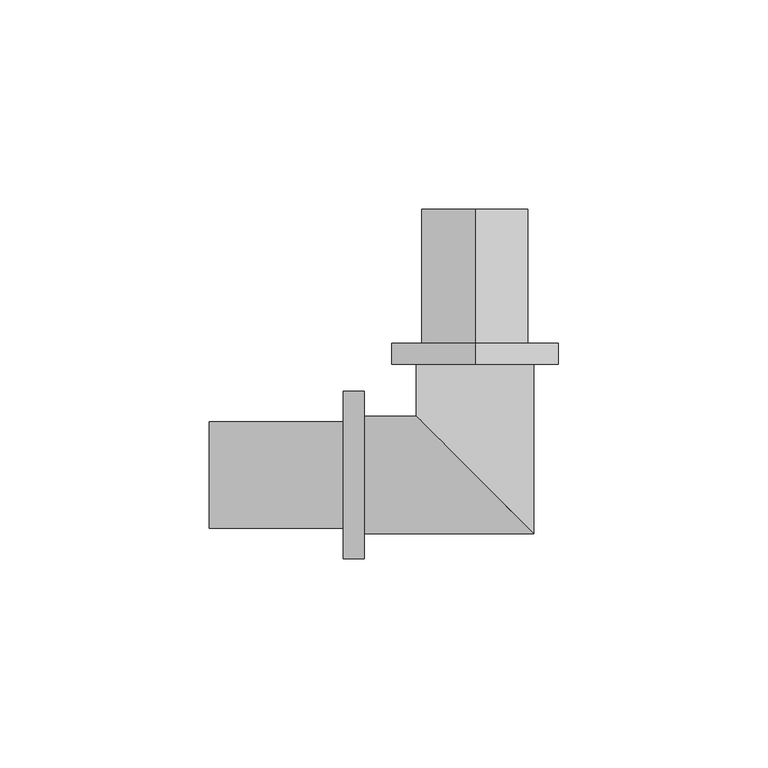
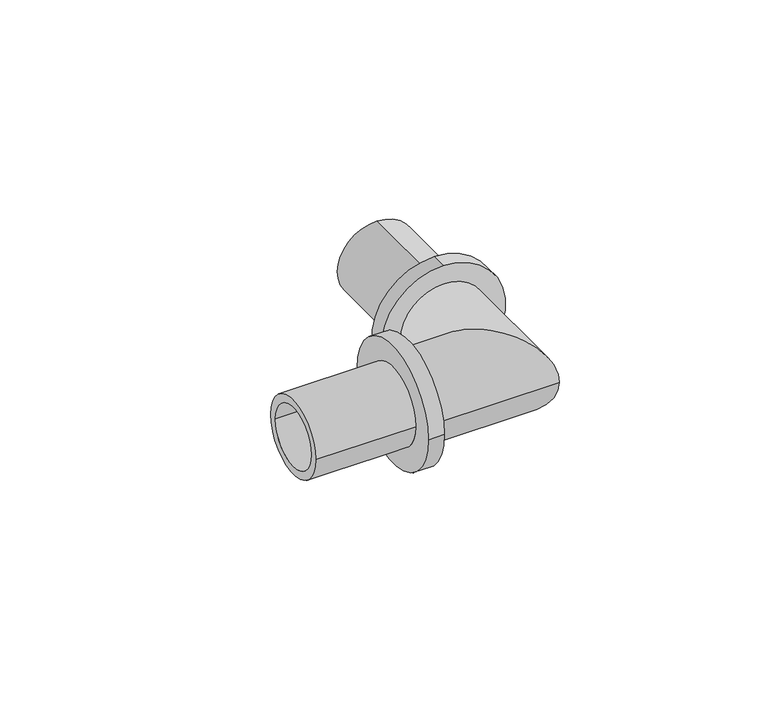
"""IFC4 building model written with IfcOpenShell, lengths in millimetres: pipe fitting geometry, RAUTITAN_Corner_LX : RTI LX C NL."""

from ifc_helpers import new_model, si_unit, frame, origin, place, context, project, spatial, polyline, circle_curve, ellipse_curve, source, transform, mapped, element, save
from ifc_brep_helpers import plane_surface, cylinder_surface, revolved_surface, advanced_brep


def pipe_fitting_b82b2fb3(model_context):
    return source(origin(), model_context, "Body", "AdvancedBrep", [
        advanced_brep(
        [(0.0, 31.5, 20.0), (0.0, 31.5, -20.0), (0.0, 26.5, -20.0), (0.0, 26.5, 20.0), (0.0, 63.5, 12.7), (0.0, 63.5, -12.7), (0.0, 31.5, -12.7), (0.0, 31.5, 12.7), (0.0, 26.5, 10.0), (0.0, 26.5, -10.0), (0.0, 63.5, -10.0), (0.0, 63.5, 10.0)],
        [
            (0, 1, circle_curve(frame((0.0, 31.5, 0.0), z_axis=(0.0, -1.0, 0.0), x_axis=(0.0, 0.0, -1.0)), 20.0)),
            (1, 2),
            (2, 3, circle_curve(frame((0.0, 26.5, 0.0), z_axis=(0.0, 1.0, 0.0), x_axis=(0.0, 0.0, -1.0)), 20.0)),
            (3, 0),
            (4, 5, circle_curve(frame((0.0, 63.5, 0.0), z_axis=(0.0, -1.0, 0.0), x_axis=(0.0, 0.0, -1.0)), 12.7)),
            (5, 6),
            (6, 7, circle_curve(frame((0.0, 31.5, 0.0), z_axis=(0.0, 1.0, 0.0), x_axis=(0.0, 0.0, -1.0)), 12.7)),
            (7, 4),
            (8, 9, circle_curve(frame((0.0, 26.5, 0.0), z_axis=(0.0, -1.0, 0.0), x_axis=(0.0, 0.0, -1.0)), 10.0)),
            (9, 10),
            (10, 11, circle_curve(frame((0.0, 63.5, 0.0), z_axis=(0.0, 1.0, 0.0), x_axis=(0.0, 0.0, -1.0)), 10.0)),
            (11, 8),
            (1, 0, circle_curve(frame((0.0, 31.5, 0.0), z_axis=(0.0, -1.0, 0.0), x_axis=(0.0, 0.0, 1.0)), 20.0)),
            (3, 2, circle_curve(frame((0.0, 26.5, 0.0), z_axis=(0.0, 1.0, 0.0), x_axis=(0.0, 0.0, 1.0)), 20.0)),
            (6, 7, circle_curve(frame((0.0, 31.5, 0.0), z_axis=(0.0, -1.0, 0.0), x_axis=(0.0, 0.0, 1.0)), 12.7)),
            (5, 4, circle_curve(frame((0.0, 63.5, 0.0), z_axis=(0.0, -1.0, 0.0), x_axis=(0.0, 0.0, 1.0)), 12.7)),
            (10, 11, circle_curve(frame((0.0, 63.5, 0.0), z_axis=(0.0, -1.0, 0.0), x_axis=(0.0, 0.0, 1.0)), 10.0)),
            (9, 8, circle_curve(frame((0.0, 26.5, 0.0), z_axis=(0.0, -1.0, 0.0), x_axis=(0.0, 0.0, 1.0)), 10.0)),
        ],
        [
            cylinder_surface(frame((0.0, 26.5, 0.0), z_axis=(0.0, 1.0, 0.0), x_axis=(0.0, 0.0, -1.0)), 20.0),
            cylinder_surface(frame((0.0, 26.5, 0.0), z_axis=(0.0, 1.0, 0.0), x_axis=(0.0, 0.0, -1.0)), 12.7),
            revolved_surface(polyline([(0.0, 63.5, -10.0), (0.0, 26.5, -10.0)]), (0.0, 26.5, 0.0), (0.0, 1.0, 0.0)),
            cylinder_surface(frame((0.0, 26.5, 0.0), z_axis=(0.0, 1.0, 0.0), x_axis=(0.0, 0.0, 1.0)), 20.0),
            plane_surface(frame((0.0, 31.5, 0.0), z_axis=(0.0, 1.0, 0.0), x_axis=(0.0, 0.0, 1.0))),
            cylinder_surface(frame((0.0, 26.5, 0.0), z_axis=(0.0, 1.0, 0.0), x_axis=(0.0, 0.0, 1.0)), 12.7),
            plane_surface(frame((0.0, 63.5, 0.0), z_axis=(0.0, 1.0, 0.0), x_axis=(0.0, 0.0, 1.0))),
            revolved_surface(polyline([(0.0, 63.5, 10.0), (0.0, 26.5, 10.0)]), (0.0, 26.5, 0.0), (0.0, 1.0, 0.0)),
            plane_surface(frame((0.0, 26.5, 0.0), z_axis=(0.0, -1.0, 0.0), x_axis=(0.0, 0.0, 1.0))),
        ],
        [
            (0, [[1, 2, 3, 4]]),
            (1, [[5, 6, 7, 8]]),
            (2, [[9, 10, 11, 12]]),
            (3, [[13, -4, 14, -2]]),
            (4, [[-13, -1], [15, -7]]),
            (5, [[16, -8, -15, -6]]),
            (6, [[-16, -5], [17, -11]]),
            (7, [[18, -12, -17, -10]]),
            (8, [[-14, -3], [-18, -9]]),
        ],
    ),
        advanced_brep(
        [(-31.5, -20.0, 0.0), (-31.5, 20.0, 0.0), (-26.5, 20.0, 0.0), (-26.5, -20.0, 0.0), (-63.5, -12.7, 0.0), (-63.5, 12.7, 0.0), (-31.5, 12.7, 0.0), (-31.5, -12.7, 0.0), (-26.5, -10.0, 0.0), (-26.5, 10.0, 0.0), (-63.5, 10.0, 0.0), (-63.5, -10.0, 0.0)],
        [
            (0, 1, circle_curve(frame((-31.5, 0.0, 0.0), z_axis=(1.0, 0.0, 0.0), x_axis=(0.0, 1.0, 0.0)), 20.0)),
            (1, 2),
            (2, 3, circle_curve(frame((-26.5, 0.0, 0.0), z_axis=(-1.0, 0.0, 0.0), x_axis=(0.0, 1.0, 0.0)), 20.0)),
            (3, 0),
            (4, 5, circle_curve(frame((-63.5, 0.0, 0.0), z_axis=(1.0, 0.0, 0.0), x_axis=(0.0, 1.0, 0.0)), 12.7)),
            (5, 6),
            (6, 7, circle_curve(frame((-31.5, 0.0, 0.0), z_axis=(-1.0, 0.0, 0.0), x_axis=(0.0, 1.0, 0.0)), 12.7)),
            (7, 4),
            (8, 9, circle_curve(frame((-26.5, 0.0, 0.0), z_axis=(1.0, 0.0, 0.0), x_axis=(0.0, 1.0, 0.0)), 10.0)),
            (9, 10),
            (10, 11, circle_curve(frame((-63.5, 0.0, 0.0), z_axis=(-1.0, 0.0, 0.0), x_axis=(0.0, 1.0, 0.0)), 10.0)),
            (11, 8),
            (1, 0, circle_curve(frame((-31.5, 0.0, 0.0), z_axis=(1.0, 0.0, 0.0), x_axis=(0.0, -1.0, 0.0)), 20.0)),
            (3, 2, circle_curve(frame((-26.5, 0.0, 0.0), z_axis=(-1.0, 0.0, 0.0), x_axis=(0.0, -1.0, 0.0)), 20.0)),
            (6, 7, circle_curve(frame((-31.5, 0.0, 0.0), z_axis=(1.0, 0.0, 0.0), x_axis=(0.0, -1.0, 0.0)), 12.7)),
            (5, 4, circle_curve(frame((-63.5, 0.0, 0.0), z_axis=(1.0, 0.0, 0.0), x_axis=(0.0, -1.0, 0.0)), 12.7)),
            (10, 11, circle_curve(frame((-63.5, 0.0, 0.0), z_axis=(1.0, 0.0, 0.0), x_axis=(0.0, -1.0, 0.0)), 10.0)),
            (9, 8, circle_curve(frame((-26.5, 0.0, 0.0), z_axis=(1.0, 0.0, 0.0), x_axis=(0.0, -1.0, 0.0)), 10.0)),
        ],
        [
            cylinder_surface(frame((-26.5, 0.0, 0.0), z_axis=(-1.0, 0.0, 0.0), x_axis=(0.0, 1.0, 0.0)), 20.0),
            cylinder_surface(frame((-26.5, 0.0, 0.0), z_axis=(-1.0, 0.0, 0.0), x_axis=(0.0, 1.0, 0.0)), 12.7),
            revolved_surface(polyline([(-63.5, 10.0, 0.0), (-26.5, 10.0, 0.0)]), (-26.5, 0.0, 0.0), (-1.0, 0.0, 0.0)),
            cylinder_surface(frame((-26.5, 0.0, 0.0), z_axis=(-1.0, 0.0, 0.0), x_axis=(0.0, -1.0, 0.0)), 20.0),
            plane_surface(frame((-31.5, 0.0, 0.0), z_axis=(-1.0, 0.0, 0.0), x_axis=(0.0, -1.0, 0.0))),
            cylinder_surface(frame((-26.5, 0.0, 0.0), z_axis=(-1.0, 0.0, 0.0), x_axis=(0.0, -1.0, 0.0)), 12.7),
            plane_surface(frame((-63.5, 0.0, 0.0), z_axis=(-1.0, 0.0, 0.0), x_axis=(0.0, -1.0, 0.0))),
            revolved_surface(polyline([(-63.5, -10.0, 0.0), (-26.5, -10.0, 0.0)]), (-26.5, 0.0, 0.0), (-1.0, 0.0, 0.0)),
            plane_surface(frame((-26.5, 0.0, 0.0), z_axis=(1.0, 0.0, 0.0), x_axis=(0.0, -1.0, 0.0))),
        ],
        [
            (0, [[1, 2, 3, 4]]),
            (1, [[5, 6, 7, 8]]),
            (2, [[9, 10, 11, 12]]),
            (3, [[13, -4, 14, -2]]),
            (4, [[-13, -1], [15, -7]]),
            (5, [[16, -8, -15, -6]]),
            (6, [[-16, -5], [17, -11]]),
            (7, [[18, -12, -17, -10]]),
            (8, [[-14, -3], [-18, -9]]),
        ],
    ),
        advanced_brep(
        [(-26.5, -14.0, 0.0), (-26.5, 14.0, 0.0), (-26.5, -10.0, 0.0), (-26.5, 10.0, 0.0), (-10.0, 10.0, 0.0), (10.0, -10.0, 0.0), (14.0, 26.5, 0.0), (-14.0, 26.5, 0.0), (10.0, 26.5, 0.0), (-10.0, 26.5, 0.0), (14.0, -14.0, 0.0), (-14.0, 14.0, 0.0)],
        [
            (0, 1, circle_curve(frame((-26.5, 0.0, 0.0), z_axis=(-1.0, 0.0, 0.0), x_axis=(0.0, 1.0, 0.0)), 14.0)),
            (1, 0, circle_curve(frame((-26.5, 0.0, 0.0), z_axis=(-1.0, 0.0, 0.0), x_axis=(0.0, 1.0, 0.0)), 14.0)),
            (2, 3, circle_curve(frame((-26.5, 0.0, 0.0), z_axis=(1.0, 0.0, 0.0), x_axis=(0.0, 1.0, 0.0)), 10.0)),
            (3, 2, circle_curve(frame((-26.5, 0.0, 0.0), z_axis=(1.0, 0.0, 0.0), x_axis=(0.0, 1.0, 0.0)), 10.0)),
            (3, 4),
            (4, 5, ellipse_curve(frame((0.0, 0.0, 0.0), z_axis=(0.707106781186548, 0.7071067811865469, 0.0), x_axis=(0.7071067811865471, -0.7071067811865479, 0.0)), 14.1421356, 10.0)),
            (5, 2),
            (5, 4, ellipse_curve(frame((0.0, 0.0, 0.0), z_axis=(0.707106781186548, 0.7071067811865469, 0.0), x_axis=(0.7071067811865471, -0.7071067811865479, 0.0)), 14.1421356, 10.0)),
            (6, 7, circle_curve(frame((0.0, 26.5, 0.0), z_axis=(0.0, 1.0, 0.0), x_axis=(-1.0, 0.0, 0.0)), 14.0)),
            (7, 6, circle_curve(frame((0.0, 26.5, 0.0), z_axis=(0.0, 1.0, 0.0), x_axis=(-1.0, 0.0, 0.0)), 14.0)),
            (8, 9, circle_curve(frame((0.0, 26.5, 0.0), z_axis=(0.0, -1.0, 0.0), x_axis=(-1.0, 0.0, 0.0)), 10.0)),
            (9, 8, circle_curve(frame((0.0, 26.5, 0.0), z_axis=(0.0, -1.0, 0.0), x_axis=(-1.0, 0.0, 0.0)), 10.0)),
            (4, 9),
            (8, 5),
            (0, 10),
            (10, 11, ellipse_curve(frame((0.0, 0.0, 0.0), z_axis=(-0.707106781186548, -0.7071067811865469, 0.0), x_axis=(-0.7071067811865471, 0.7071067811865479, 0.0)), 19.7989899, 14.0)),
            (11, 1),
            (11, 10, ellipse_curve(frame((0.0, 0.0, 0.0), z_axis=(-0.707106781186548, -0.7071067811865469, 0.0), x_axis=(-0.7071067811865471, 0.7071067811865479, 0.0)), 19.7989899, 14.0)),
            (10, 6),
            (7, 11),
        ],
        [
            plane_surface(frame((-26.5, 0.0, 0.0), z_axis=(-1.0, 0.0, 0.0), x_axis=(0.0, 0.0, 1.0))),
            revolved_surface(polyline([(10.0, 10.0, 0.0), (-26.5, 10.0, 0.0)]), (-26.5, 0.0, 0.0), (1.0, 0.0, 0.0)),
            plane_surface(frame((0.0, 26.5, 0.0), z_axis=(0.0, 1.0, 0.0), x_axis=(0.0, 0.0, 1.0))),
            revolved_surface(polyline([(-10.0, 26.5, 0.0), (-10.0, -10.0, 0.0)]), (0.0, 0.0, 0.0), (0.0, 1.0, 0.0)),
            cylinder_surface(frame((-26.5, 0.0, 0.0), z_axis=(-1.0, 0.0, 0.0), x_axis=(0.0, 1.0, 0.0)), 14.0),
            cylinder_surface(frame((0.0, 0.0, 0.0), z_axis=(0.0, -1.0, 0.0), x_axis=(-1.0, 0.0, 0.0)), 14.0),
        ],
        [
            (0, [[1, 2], [3, 4]]),
            (1, [[-4, 5, 6, 7]]),
            (1, [[-3, -7, 8, -5]]),
            (2, [[9, 10], [11, 12]]),
            (3, [[-6, 13, -11, 14]]),
            (3, [[-8, -14, -12, -13]]),
            (4, [[-1, 15, 16, 17]]),
            (4, [[-2, -17, 18, -15]]),
            (5, [[-16, 19, -10, 20]]),
            (5, [[-18, -20, -9, -19]]),
        ],
    ),
    ])


if __name__ == "__main__":
    model = new_model("IFC4")
    model_context = context("Model", 3, world=origin())
    ifc_project = project(units=[si_unit("LENGTHUNIT", "METRE", prefix="MILLI")], contexts=[model_context])
    site = spatial("IfcSite", under=ifc_project)
    building = spatial("IfcBuilding", under=site)
    placement = place(None, origin())
    pipe_fitting_shape = pipe_fitting_b82b2fb3(model_context)
    element("IfcPipeFitting", 1, ObjectType="RAUTITAN_Corner_LX : RTI LX C NL", at=placement, inside=building, context=model_context, shape_type="MappedRepresentation", body=[
        mapped(pipe_fitting_shape, transform((0.0, 0.0, 0.0), x_axis=(1.0, 0.0, 0.0), y_axis=(0.0, 1.0, 0.0), z_axis=(0.0, 0.0, 1.0))),
    ])
    save(model, "model.ifc")
